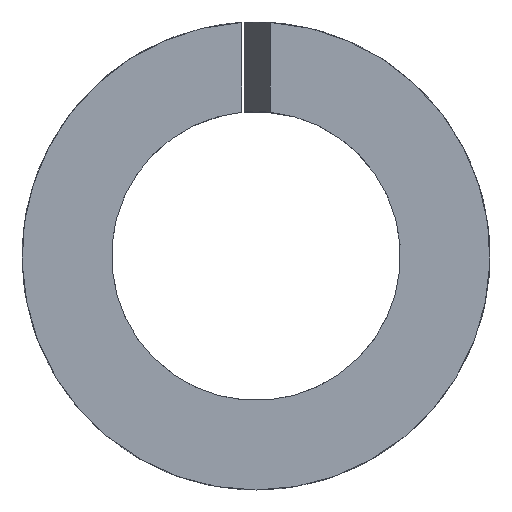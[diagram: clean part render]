
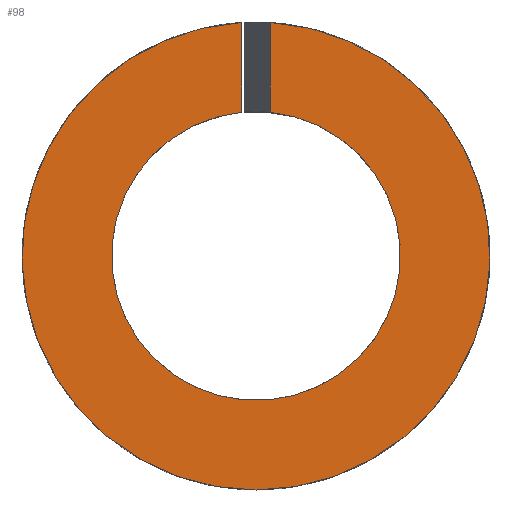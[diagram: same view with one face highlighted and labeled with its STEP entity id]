
A CAD part, left-side view. The second image highlights one B-rep face of the part: STEP entity #98.
In plain terms, the highlighted planar face has unit normal (-1, 0, 0).
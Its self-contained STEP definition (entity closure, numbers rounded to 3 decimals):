
#19=CIRCLE('',#132,7.1);
#20=CIRCLE('',#134,11.5);
#26=FACE_OUTER_BOUND('',#32,.T.);
#32=EDGE_LOOP('',(#85,#86,#87,#88));
#34=LINE('',#179,#38);
#35=LINE('',#185,#39);
#38=VECTOR('',#145,10.);
#39=VECTOR('',#150,10.);
#46=VERTEX_POINT('',#173);
#48=VERTEX_POINT('',#177);
#49=VERTEX_POINT('',#181);
#51=VERTEX_POINT('',#184);
#56=EDGE_CURVE('',#46,#48,#34,.T.);
#58=EDGE_CURVE('',#51,#49,#35,.T.);
#63=EDGE_CURVE('',#49,#46,#19,.T.);
#64=EDGE_CURVE('',#48,#51,#20,.T.);
#85=ORIENTED_EDGE('',*,*,#58,.T.);
#86=ORIENTED_EDGE('',*,*,#63,.T.);
#87=ORIENTED_EDGE('',*,*,#56,.T.);
#88=ORIENTED_EDGE('',*,*,#64,.T.);
#92=PLANE('',#135);
#98=ADVANCED_FACE('',(#26),#92,.T.);
#132=AXIS2_PLACEMENT_3D('',#193,#162,#163);
#134=AXIS2_PLACEMENT_3D('',#195,#166,#167);
#135=AXIS2_PLACEMENT_3D('',#196,#168,#169);
#145=DIRECTION('',(0.,0.,1.));
#150=DIRECTION('',(0.,0.,-1.));
#162=DIRECTION('center_axis',(1.,0.,0.));
#163=DIRECTION('ref_axis',(0.,-1.,0.));
#166=DIRECTION('center_axis',(-1.,0.,0.));
#167=DIRECTION('ref_axis',(0.,-1.,0.));
#168=DIRECTION('center_axis',(-1.,0.,0.));
#169=DIRECTION('ref_axis',(0.,0.,1.));
#173=CARTESIAN_POINT('',(0.,0.7,7.065));
#177=CARTESIAN_POINT('',(0.,0.7,11.479));
#179=CARTESIAN_POINT('',(0.,0.7,0.));
#181=CARTESIAN_POINT('',(0.,-0.7,7.065));
#184=CARTESIAN_POINT('',(0.,-0.7,11.479));
#185=CARTESIAN_POINT('',(0.,-0.7,0.));
#193=CARTESIAN_POINT('Origin',(0.,0.,0.));
#195=CARTESIAN_POINT('Origin',(0.,0.,0.));
#196=CARTESIAN_POINT('Origin',(0.,0.,0.));
